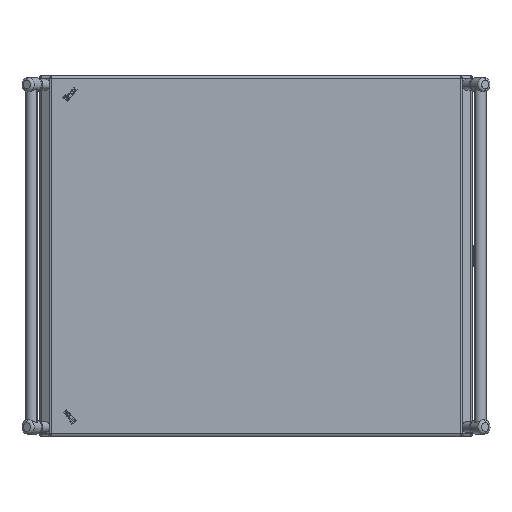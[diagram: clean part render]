
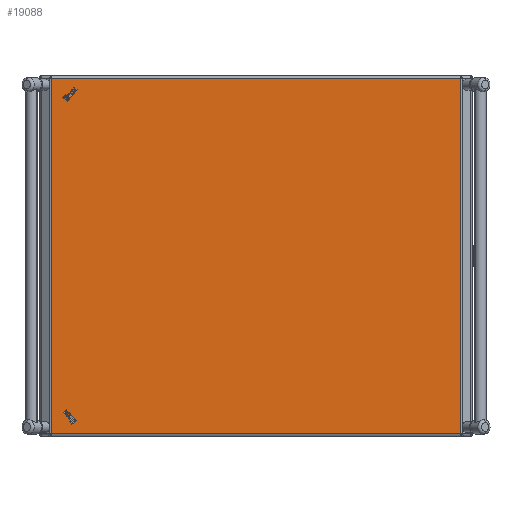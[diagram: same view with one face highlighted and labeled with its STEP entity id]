
A CAD part, top view. The second image highlights one B-rep face of the part: STEP entity #19088.
In plain terms, the highlighted planar face has unit normal (0, 0, 1).
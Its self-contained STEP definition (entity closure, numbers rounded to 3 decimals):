
#2814 = DIRECTION ( 'NONE',  ( 1., 0., 0. ) ) ;
#2929 = EDGE_LOOP ( 'NONE', ( #30881, #5306, #28542, #33283 ) ) ;
#3021 = AXIS2_PLACEMENT_3D ( 'NONE', #6197, #19214, #2814 ) ;
#3330 = VECTOR ( 'NONE', #28552, 1000. ) ;
#4020 = LINE ( 'NONE', #17182, #3330 ) ;
#5306 = ORIENTED_EDGE ( 'NONE', *, *, #34135, .T. ) ;
#5471 = CARTESIAN_POINT ( 'NONE',  ( 284.294, 246.35, 26.5 ) ) ;
#5865 = CARTESIAN_POINT ( 'NONE',  ( -284.294, -246.35, 26.5 ) ) ;
#6071 = CARTESIAN_POINT ( 'NONE',  ( -284.294, -249.35, 26.5 ) ) ;
#6197 = CARTESIAN_POINT ( 'NONE',  ( 299.35, -249.35, 26.5 ) ) ;
#7596 = VECTOR ( 'NONE', #30951, 1000. ) ;
#9026 = EDGE_CURVE ( 'NONE', #23395, #23616, #28924, .T. ) ;
#9314 = VECTOR ( 'NONE', #29450, 1000. ) ;
#11682 = LINE ( 'NONE', #6071, #7596 ) ;
#12487 = LINE ( 'NONE', #23468, #22521 ) ;
#13350 = CARTESIAN_POINT ( 'NONE',  ( 284.294, -246.35, 26.5 ) ) ;
#14335 = PLANE ( 'NONE',  #3021 ) ;
#16882 = VERTEX_POINT ( 'NONE', #5865 ) ;
#17182 = CARTESIAN_POINT ( 'NONE',  ( 284.294, -249.35, 26.5 ) ) ;
#17991 = VERTEX_POINT ( 'NONE', #13350 ) ;
#18648 = EDGE_CURVE ( 'NONE', #23616, #16882, #11682, .T. ) ;
#19088 = ADVANCED_FACE ( 'NONE', ( #33442 ), #14335, .T. ) ;
#19214 = DIRECTION ( 'NONE',  ( 0., 0., 1. ) ) ;
#20777 = DIRECTION ( 'NONE',  ( 1., 0., 0. ) ) ;
#22521 = VECTOR ( 'NONE', #20777, 1000. ) ;
#23395 = VERTEX_POINT ( 'NONE', #5471 ) ;
#23468 = CARTESIAN_POINT ( 'NONE',  ( 285.25, -246.35, 26.5 ) ) ;
#23616 = VERTEX_POINT ( 'NONE', #30263 ) ;
#26028 = CARTESIAN_POINT ( 'NONE',  ( -285.25, 246.35, 26.5 ) ) ;
#28542 = ORIENTED_EDGE ( 'NONE', *, *, #34705, .T. ) ;
#28552 = DIRECTION ( 'NONE',  ( 0., 1., 0. ) ) ;
#28924 = LINE ( 'NONE', #26028, #9314 ) ;
#29450 = DIRECTION ( 'NONE',  ( -1., 0., 0. ) ) ;
#30263 = CARTESIAN_POINT ( 'NONE',  ( -284.294, 246.35, 26.5 ) ) ;
#30881 = ORIENTED_EDGE ( 'NONE', *, *, #18648, .T. ) ;
#30951 = DIRECTION ( 'NONE',  ( 0., -1., 0. ) ) ;
#33283 = ORIENTED_EDGE ( 'NONE', *, *, #9026, .T. ) ;
#33442 = FACE_OUTER_BOUND ( 'NONE', #2929, .T. ) ;
#34135 = EDGE_CURVE ( 'NONE', #16882, #17991, #12487, .T. ) ;
#34705 = EDGE_CURVE ( 'NONE', #17991, #23395, #4020, .T. ) ;
